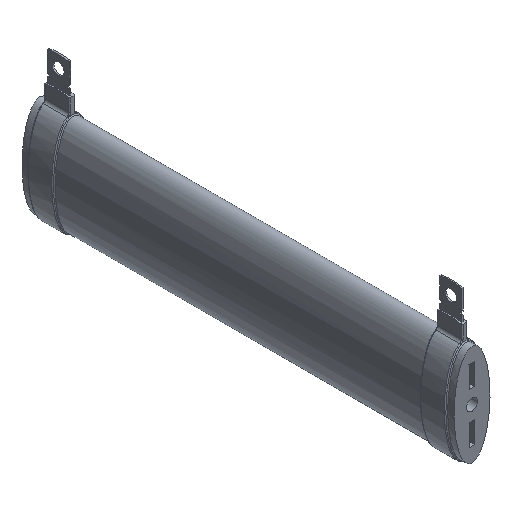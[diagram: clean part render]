
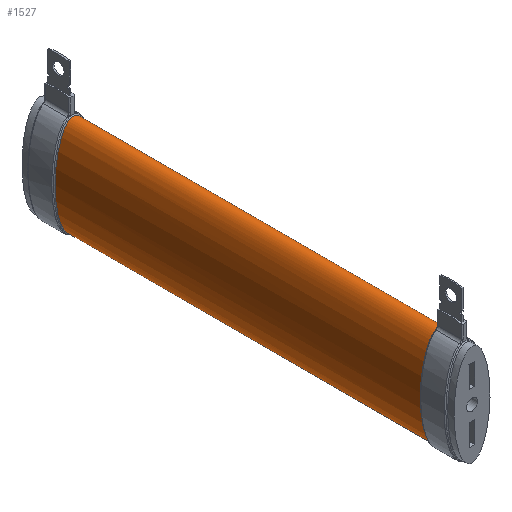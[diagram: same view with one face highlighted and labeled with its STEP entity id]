
A CAD part, isometric view. The second image highlights one B-rep face of the part: STEP entity #1527.
In plain terms, the highlighted free-form (B-spline) face has degree [1, 2] with [2, 9] control points.
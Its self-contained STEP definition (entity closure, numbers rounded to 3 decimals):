
#16=(
BOUNDED_SURFACE()
B_SPLINE_SURFACE(1,2,((#3308,#3309,#3310,#3311,#3312,#3313,#3314,#3315,
#3316),(#3317,#3318,#3319,#3320,#3321,#3322,#3323,#3324,#3325)),
 .UNSPECIFIED.,.F.,.T.,.F.)
B_SPLINE_SURFACE_WITH_KNOTS((2,2),(3,2,2,2,3),(0.66,7.911),
(-3.142,-1.571,0.,1.571,3.142),
 .UNSPECIFIED.)
GEOMETRIC_REPRESENTATION_ITEM()
RATIONAL_B_SPLINE_SURFACE(((1.,0.707,1.,0.707,1.,
0.707,1.,0.707,1.),(1.,0.707,1.,0.707,
1.,0.707,1.,0.707,1.)))
REPRESENTATION_ITEM($)
SURFACE()
);
#55=B_SPLINE_CURVE_WITH_KNOTS($,3,(#3276,#3277,#3278,#3279,#3280,#3281,
#3282,#3283,#3284,#3285,#3286,#3287,#3288,#3289,#3290,#3291),
 .UNSPECIFIED.,.F.,.F.,(4,1,1,1,1,1,1,1,1,1,1,1,1,4),(-6.283,
-6.171,-6.059,-5.834,-5.386,
-4.937,-4.712,-4.488,-4.039,
-3.59,-3.441,-3.291,-3.216,
-3.142),.UNSPECIFIED.);
#56=B_SPLINE_CURVE_WITH_KNOTS($,3,(#3292,#3293,#3294,#3295,#3296,#3297,
#3298,#3299,#3300,#3301,#3302,#3303,#3304,#3305,#3306),.UNSPECIFIED.,.F.,
 .F.,(4,1,1,1,1,1,1,1,1,1,1,1,4),(-3.142,-3.142,-2.992,
-2.842,-2.693,-2.394,-2.094,
-1.795,-0.898,-0.449,-0.224,
-0.112,0.),.UNSPECIFIED.);
#57=B_SPLINE_CURVE_WITH_KNOTS($,1,(#3327,#3328),.UNSPECIFIED.,.F.,.F.,(2,
2),(-7.911,-0.661),.UNSPECIFIED.);
#58=B_SPLINE_CURVE_WITH_KNOTS($,3,(#3330,#3331,#3332,#3333),
 .UNSPECIFIED.,.F.,.F.,(4,4),(-3.238,-3.142),
 .UNSPECIFIED.);
#59=B_SPLINE_CURVE_WITH_KNOTS($,3,(#3335,#3336,#3337,#3338),
 .UNSPECIFIED.,.F.,.F.,(4,4),(-0.22,0.),
 .UNSPECIFIED.);
#60=B_SPLINE_CURVE_WITH_KNOTS($,3,(#3340,#3341,#3342,#3343,#3344,#3345,
#3346,#3347,#3348,#3349,#3350,#3351,#3352,#3353,#3354,#3355,#3356,#3357,
#3358,#3359,#3360,#3361,#3362,#3363),.UNSPECIFIED.,.F.,.F.,(4,1,1,1,1,1,
1,1,1,1,1,1,1,1,1,1,1,1,1,1,1,4),(-6.283,-6.171,-6.059,
-5.834,-5.386,-4.488,-3.89,
-3.59,-3.441,-3.291,-3.142,
-3.067,-2.992,-2.842,-2.693,
-2.244,-1.795,-0.898,-0.449,
-0.224,-0.112,0.),
 .UNSPECIFIED.);
#61=B_SPLINE_CURVE_WITH_KNOTS($,3,(#3365,#3366,#3367,#3368),
 .UNSPECIFIED.,.F.,.F.,(4,4),(-6.283,0.),
 .UNSPECIFIED.);
#62=B_SPLINE_CURVE_WITH_KNOTS($,3,(#3369,#3370,#3371,#3372,#3373),
 .UNSPECIFIED.,.F.,.F.,(4,1,4),(-3.142,-3.128,-3.046),
 .UNSPECIFIED.);
#263=FACE_OUTER_BOUND($,#353,.T.);
#353=EDGE_LOOP($,(#1165,#1166,#1167,#1168,#1169,#1170,#1171,#1172,#1173));
#645=VERTEX_POINT($,#3273);
#646=VERTEX_POINT($,#3275);
#647=VERTEX_POINT($,#3326);
#648=VERTEX_POINT($,#3329);
#649=VERTEX_POINT($,#3334);
#650=VERTEX_POINT($,#3339);
#651=VERTEX_POINT($,#3364);
#829=EDGE_CURVE($,#645,#646,#55,.T.);
#830=EDGE_CURVE($,#646,#645,#56,.T.);
#831=EDGE_CURVE($,#646,#647,#57,.T.);
#832=EDGE_CURVE($,#648,#647,#58,.T.);
#833=EDGE_CURVE($,#649,#648,#59,.T.);
#834=EDGE_CURVE($,#650,#649,#60,.T.);
#835=EDGE_CURVE($,#651,#650,#61,.T.);
#836=EDGE_CURVE($,#647,#651,#62,.T.);
#1165=ORIENTED_EDGE($,*,*,#829,.F.);
#1166=ORIENTED_EDGE($,*,*,#830,.F.);
#1167=ORIENTED_EDGE($,*,*,#831,.T.);
#1168=ORIENTED_EDGE($,*,*,#832,.F.);
#1169=ORIENTED_EDGE($,*,*,#833,.F.);
#1170=ORIENTED_EDGE($,*,*,#834,.F.);
#1171=ORIENTED_EDGE($,*,*,#835,.F.);
#1172=ORIENTED_EDGE($,*,*,#836,.F.);
#1173=ORIENTED_EDGE($,*,*,#831,.F.);
#1527=ADVANCED_FACE($,(#263),#16,.F.);
#3273=CARTESIAN_POINT('',(0.,110.75,-14.));
#3275=CARTESIAN_POINT('',(0.,110.75,14.));
#3276=CARTESIAN_POINT('Ctrl Pts',(0.,110.75,-13.999));
#3277=CARTESIAN_POINT('Ctrl Pts',(-0.336,110.75,-13.999));
#3278=CARTESIAN_POINT('Ctrl Pts',(-1.012,110.75,-13.795));
#3279=CARTESIAN_POINT('Ctrl Pts',(-2.113,110.75,-12.838));
#3280=CARTESIAN_POINT('Ctrl Pts',(-3.447,110.75,-10.554));
#3281=CARTESIAN_POINT('Ctrl Pts',(-4.474,110.75,-6.874));
#3282=CARTESIAN_POINT('Ctrl Pts',(-4.934,110.75,-3.068));
#3283=CARTESIAN_POINT('Ctrl Pts',(-5.022,110.75,-0.008));
#3284=CARTESIAN_POINT('Ctrl Pts',(-4.936,110.75,3.048));
#3285=CARTESIAN_POINT('Ctrl Pts',(-4.475,110.75,6.875));
#3286=CARTESIAN_POINT('Ctrl Pts',(-3.519,110.75,10.301));
#3287=CARTESIAN_POINT('Ctrl Pts',(-2.303,110.75,12.521));
#3288=CARTESIAN_POINT('Ctrl Pts',(-1.491,110.75,13.44));
#3289=CARTESIAN_POINT('Ctrl Pts',(-0.672,110.75,13.912));
#3290=CARTESIAN_POINT('Ctrl Pts',(-0.221,110.75,14.));
#3291=CARTESIAN_POINT('Ctrl Pts',(0.002,110.75,13.999));
#3292=CARTESIAN_POINT('Ctrl Pts',(0.,110.75,13.999));
#3293=CARTESIAN_POINT('Ctrl Pts',(0.003,110.75,13.999));
#3294=CARTESIAN_POINT('Ctrl Pts',(0.454,110.75,13.997));
#3295=CARTESIAN_POINT('Ctrl Pts',(1.338,110.75,13.626));
#3296=CARTESIAN_POINT('Ctrl Pts',(2.312,110.75,12.5));
#3297=CARTESIAN_POINT('Ctrl Pts',(3.28,110.75,10.75));
#3298=CARTESIAN_POINT('Ctrl Pts',(4.082,110.75,8.34));
#3299=CARTESIAN_POINT('Ctrl Pts',(4.671,110.75,5.347));
#3300=CARTESIAN_POINT('Ctrl Pts',(5.168,110.75,0.266));
#3301=CARTESIAN_POINT('Ctrl Pts',(4.874,110.75,-5.383));
#3302=CARTESIAN_POINT('Ctrl Pts',(3.451,110.75,-10.552));
#3303=CARTESIAN_POINT('Ctrl Pts',(2.113,110.75,-12.839));
#3304=CARTESIAN_POINT('Ctrl Pts',(1.006,110.75,-13.798));
#3305=CARTESIAN_POINT('Ctrl Pts',(0.336,110.75,-13.999));
#3306=CARTESIAN_POINT('Ctrl Pts',(0.,110.75,-13.999));
#3308=CARTESIAN_POINT('Ctrl Pts',(0.,9.247,
14.));
#3309=CARTESIAN_POINT('Ctrl Pts',(5.,9.247,14.));
#3310=CARTESIAN_POINT('Ctrl Pts',(5.,9.247,0.));
#3311=CARTESIAN_POINT('Ctrl Pts',(5.,9.247,-14.));
#3312=CARTESIAN_POINT('Ctrl Pts',(0.,9.247,
-14.));
#3313=CARTESIAN_POINT('Ctrl Pts',(-5.,9.247,-14.));
#3314=CARTESIAN_POINT('Ctrl Pts',(-5.,9.247,0.));
#3315=CARTESIAN_POINT('Ctrl Pts',(-5.,9.247,14.));
#3316=CARTESIAN_POINT('Ctrl Pts',(0.,9.247,
14.));
#3317=CARTESIAN_POINT('Ctrl Pts',(0.,110.75,14.));
#3318=CARTESIAN_POINT('Ctrl Pts',(5.,110.75,14.));
#3319=CARTESIAN_POINT('Ctrl Pts',(5.,110.75,0.));
#3320=CARTESIAN_POINT('Ctrl Pts',(5.,110.75,-14.));
#3321=CARTESIAN_POINT('Ctrl Pts',(0.,110.75,-14.));
#3322=CARTESIAN_POINT('Ctrl Pts',(-5.,110.75,-14.));
#3323=CARTESIAN_POINT('Ctrl Pts',(-5.,110.75,0.));
#3324=CARTESIAN_POINT('Ctrl Pts',(-5.,110.75,14.));
#3325=CARTESIAN_POINT('Ctrl Pts',(0.,110.75,14.));
#3326=CARTESIAN_POINT('',(0.,9.25,14.));
#3327=CARTESIAN_POINT('Ctrl Pts',(0.,110.75,14.));
#3328=CARTESIAN_POINT('Ctrl Pts',(0.,9.25,14.));
#3329=CARTESIAN_POINT('',(0.844,9.25,13.799));
#3330=CARTESIAN_POINT('Ctrl Pts',(0.844,9.25,13.799));
#3331=CARTESIAN_POINT('Ctrl Pts',(0.578,9.25,13.927));
#3332=CARTESIAN_POINT('Ctrl Pts',(0.289,9.25,13.999));
#3333=CARTESIAN_POINT('Ctrl Pts',(0.,9.25,14.));
#3334=CARTESIAN_POINT('',(0.992,9.249,13.722));
#3335=CARTESIAN_POINT('Ctrl Pts',(0.992,9.249,13.722));
#3336=CARTESIAN_POINT('Ctrl Pts',(0.943,9.249,13.749));
#3337=CARTESIAN_POINT('Ctrl Pts',(0.894,9.25,13.775));
#3338=CARTESIAN_POINT('Ctrl Pts',(0.844,9.25,13.799));
#3339=CARTESIAN_POINT('',(-0.992,9.249,13.722));
#3340=CARTESIAN_POINT('Ctrl Pts',(-0.992,9.249,13.722));
#3341=CARTESIAN_POINT('Ctrl Pts',(-1.286,9.249,13.555));
#3342=CARTESIAN_POINT('Ctrl Pts',(-1.819,9.247,13.099));
#3343=CARTESIAN_POINT('Ctrl Pts',(-2.67,9.246,11.95));
#3344=CARTESIAN_POINT('Ctrl Pts',(-3.752,9.248,9.625));
#3345=CARTESIAN_POINT('Ctrl Pts',(-4.951,9.25,4.594));
#3346=CARTESIAN_POINT('Ctrl Pts',(-5.181,9.25,-1.821));
#3347=CARTESIAN_POINT('Ctrl Pts',(-4.328,9.25,-7.682));
#3348=CARTESIAN_POINT('Ctrl Pts',(-3.205,9.247,-10.924));
#3349=CARTESIAN_POINT('Ctrl Pts',(-2.245,9.246,-12.594));
#3350=CARTESIAN_POINT('Ctrl Pts',(-1.289,9.249,-13.662));
#3351=CARTESIAN_POINT('Ctrl Pts',(-0.216,9.25,-14.085));
#3352=CARTESIAN_POINT('Ctrl Pts',(0.653,9.25,-13.917));
#3353=CARTESIAN_POINT('Ctrl Pts',(1.451,9.248,-13.474));
#3354=CARTESIAN_POINT('Ctrl Pts',(2.25,9.246,-12.594));
#3355=CARTESIAN_POINT('Ctrl Pts',(3.438,9.247,-10.492));
#3356=CARTESIAN_POINT('Ctrl Pts',(4.411,9.25,-7.174));
#3357=CARTESIAN_POINT('Ctrl Pts',(5.167,9.25,-1.338));
#3358=CARTESIAN_POINT('Ctrl Pts',(4.948,9.25,4.609));
#3359=CARTESIAN_POINT('Ctrl Pts',(3.752,9.248,9.625));
#3360=CARTESIAN_POINT('Ctrl Pts',(2.671,9.246,11.948));
#3361=CARTESIAN_POINT('Ctrl Pts',(1.822,9.247,13.097));
#3362=CARTESIAN_POINT('Ctrl Pts',(1.286,9.249,13.555));
#3363=CARTESIAN_POINT('Ctrl Pts',(0.992,9.249,13.722));
#3364=CARTESIAN_POINT('',(-0.844,9.25,13.799));
#3365=CARTESIAN_POINT('Ctrl Pts',(-0.844,9.25,13.799));
#3366=CARTESIAN_POINT('Ctrl Pts',(-0.894,9.25,13.775));
#3367=CARTESIAN_POINT('Ctrl Pts',(-0.943,9.249,13.749));
#3368=CARTESIAN_POINT('Ctrl Pts',(-0.992,9.249,13.722));
#3369=CARTESIAN_POINT('Ctrl Pts',(0.,9.25,14.));
#3370=CARTESIAN_POINT('Ctrl Pts',(-0.041,9.25,14.));
#3371=CARTESIAN_POINT('Ctrl Pts',(-0.33,9.25,13.991));
#3372=CARTESIAN_POINT('Ctrl Pts',(-0.615,9.25,13.909));
#3373=CARTESIAN_POINT('Ctrl Pts',(-0.844,9.25,13.799));
